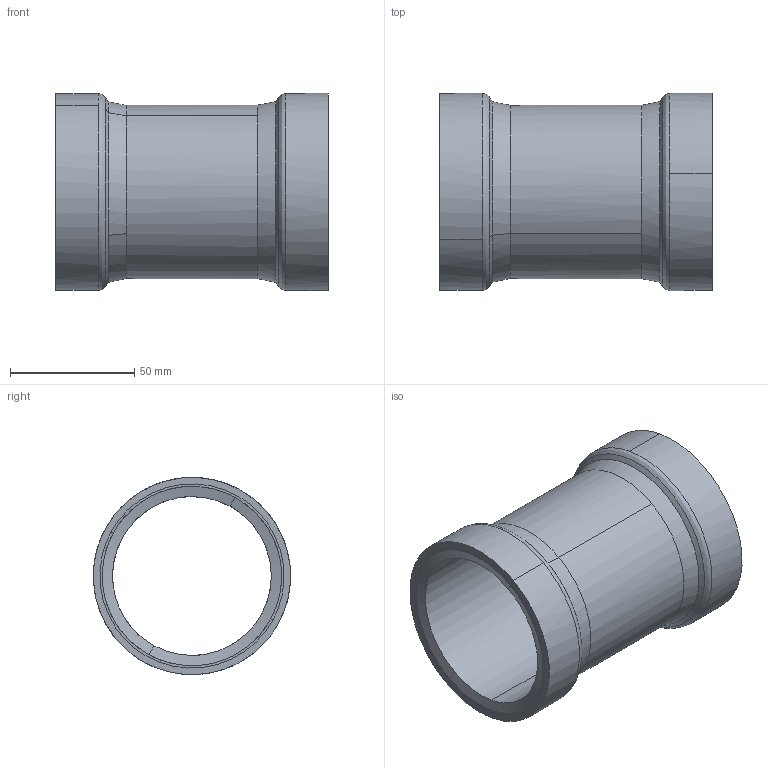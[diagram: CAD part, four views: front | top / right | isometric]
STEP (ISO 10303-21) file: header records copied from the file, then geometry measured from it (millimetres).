
FILE_DESCRIPTION(('STEP AP214'),'1');
FILE_NAME('pim0002568.stp','2015-03-18T15:08:28',('CAD-PIM'),('TransMagic, Inc.'),'TMR11sp0','TransMagic R11',' ');
FILE_SCHEMA(('AUTOMOTIVE_DESIGN'));
Length unit declared in the file: millimetre
Products named in the file (1): pim0002568
Bounding box: 110 x 79.46 x 79.43 mm (x, y, z)
Volume: 116034.2 mm3; surface area: 51433.6 mm2
Topology: 1 solids, 1 shells, 28 faces, 77 edges, 53 vertices
Faces by surface type: bspline 28
Entity records: 1642 total; most frequent: CARTESIAN_POINT 989, ORIENTED_EDGE 154, EDGE_CURVE 77, VERTEX_POINT 53, EDGE_LOOP 32, STYLED_ITEM 29, PRESENTATION_STYLE_ASSIGNMENT 29, SURFACE_STYLE_USAGE 29
